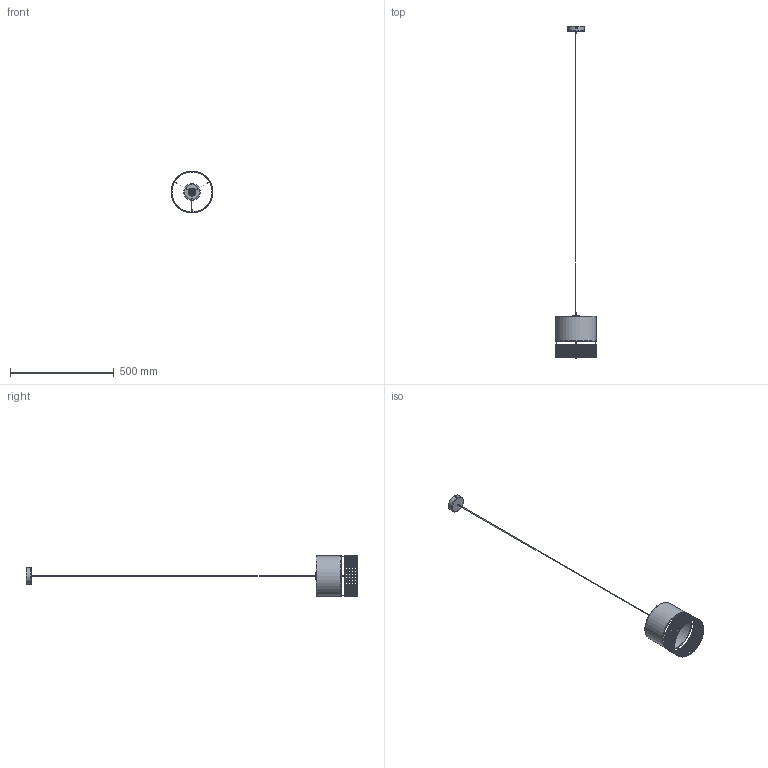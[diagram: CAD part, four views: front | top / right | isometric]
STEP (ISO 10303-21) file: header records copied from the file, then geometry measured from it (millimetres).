
FILE_DESCRIPTION(/* description */ (''),/* implementation_level */ '2;1');
FILE_NAME(/* name */ 'C:/Users/kubaw/OneDrive/Pulpit/Nowy folder (3)/6534_PAGLIA v9.step',/* time_stamp */ '2021-12-11T12:17:47+01:00',/* author */ (''),/* organization */ (''),/* preprocessor_version */ 'ST-DEVELOPER v18.1',/* originating_system */ 'Autodesk Translation Framework v10.10.0.1391',/* authorisation */ '');
FILE_SCHEMA (('AUTOMOTIVE_DESIGN { 1 0 10303 214 3 1 1 }'));
Products named in the file (4): 6534_PAGLIA; MOCOWANIE_PAGLIA v3; MOCOWANIE_PAGLIA2 v2; ŚRUBA_PA
Assembly tree (4 placements, depth 2):
  6534_PAGLIA
    MOCOWANIE_PAGLIA v3
    MOCOWANIE_PAGLIA2 v2
    ŚRUBA_PA  x2
Bounding box: 200 x 1600 x 200 mm (x, y, z)
Volume: 294236 mm3; surface area: 341931.2 mm2
Topology: 211 solids, 212 shells, 2277 faces, 5560 edges, 3709 vertices
Faces by surface type: plane 863, cylinder 764, bspline 513, cone 80, torus 57
Full cylindrical faces by diameter (mm): 2 x9, 3.8 x1, 4 x7, 7.5 x2, 9.6 x2, 19.84 x1, 24.929 x10, 26.88 x1, 28.8 x3, 32 x1, 33 x1, 33.12 x1, 38 x1, 80 x1, 193.978 x4, 194.978 x1, 196.978 x1, 197.978 x4, 198 x10, 200 x10
Entity records: 136149 total; most frequent: CARTESIAN_POINT 86189, ORIENTED_EDGE 11011, DIRECTION 9097, EDGE_CURVE 5506, VERTEX_POINT 3673, AXIS2_PLACEMENT_3D 3575, EDGE_LOOP 2306, FACE_OUTER_BOUND 2255
